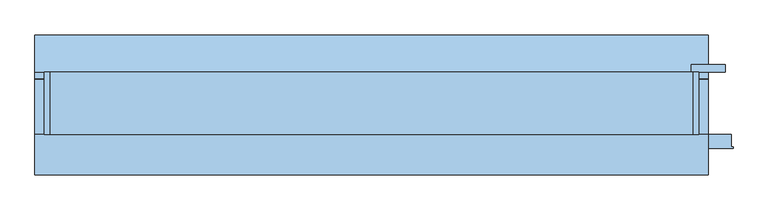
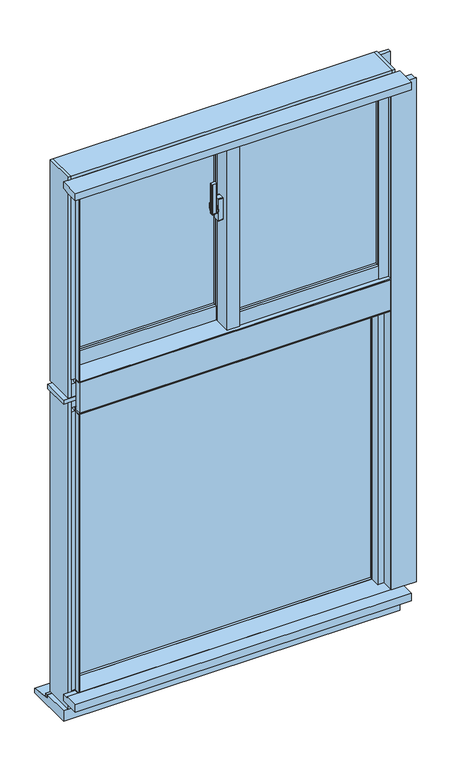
"""IFC4 building model written with IfcOpenShell, lengths in millimetres: window geometry, FNSⅡ100R_非防火_RC枠_段窓_分解無目 : 引違/FIX."""

from ifc_helpers import new_model, si_unit, point, frame, frame_2d, origin, place, context, project, spatial, polyline, circle_curve, trimmed, segment, composite_curve, outline, extrude, faceted_brep, source, transform, mapped, element, save
from ifc_brep_helpers import plane_surface, cylinder_surface, revolved_surface, advanced_brep


def window_89d6bdb9(model_context):
    return source(origin(), model_context, "Body", "SolidModel", [
        extrude(outline(composite_curve([segment(polyline([(-39.0, -20.4), (-39.0, -28.6)]), True, "CONTINUOUS"), segment(trimmed(circle_curve(frame_2d((-41.0, -28.6)), 2.0), [point((-39.0, -28.6))], [point((-41.3606557, -30.5672131))], False, "CARTESIAN"), True, "CONTINUOUS"), segment(polyline([(-41.3606557, -30.5672131), (-52.3606557, -28.5505464)]), True, "CONTINUOUS"), segment(trimmed(circle_curve(frame_2d((-52.0, -26.5833333)), 2.0), [point((-52.3606557, -28.5505464))], [point((-54.0, -26.5833333))], False, "CARTESIAN"), True, "CONTINUOUS"), segment(polyline([(-54.0, -26.5833333), (-54.0, -22.4166667)]), True, "CONTINUOUS"), segment(trimmed(circle_curve(frame_2d((-52.0, -22.4166667)), 2.0), [point((-54.0, -22.4166667))], [point((-52.3606557, -20.4494536))], False, "CARTESIAN"), True, "CONTINUOUS"), segment(polyline([(-52.3606557, -20.4494536), (-41.3606557, -18.4327869)]), True, "CONTINUOUS"), segment(trimmed(circle_curve(frame_2d((-41.0, -20.4)), 2.0), [point((-41.3606557, -18.4327869))], [point((-39.0, -20.4))], False, "CARTESIAN"), True, "CONTINUOUS")], self_intersect=False)), frame((0.0, 0.0, 2345.0), z_axis=(0.0, 0.0, 1.0), x_axis=(1.0, 0.0, 0.0)), (0.0, 0.0, 1.0), 100.0),
        advanced_brep(
        [(-37.5, -16.1765715, 2376.7333311), (-45.5, -16.1765715, 2376.7333311), (-45.5, -16.5648001, 2375.2844424), (-39.0, -16.5648001, 2375.2844424), (-39.0, -18.3765334, 2368.5229616), (-37.5, -18.3765334, 2368.5229616), (-39.0, -18.3533883, 2334.3190372), (-45.5, -18.3533883, 2334.3190372), (-45.5, -18.092916, 2332.8418256), (-37.5, -18.092916, 2332.8418256), (-37.5, -19.5689255, 2341.2126915), (-39.0, -19.5689255, 2341.2126915)],
        [
            (0, 1),
            (1, 2),
            (2, 3),
            (3, 4),
            (4, 5),
            (5, 0),
            (6, 7),
            (7, 8),
            (8, 9),
            (9, 10),
            (10, 11),
            (11, 6),
            (0, 9, circle_curve(frame((-37.5, -22.0, 2355.0), z_axis=(-1.0, 0.0, 0.0), x_axis=(0.0, 0.25881904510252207, 0.965925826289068)), 22.5)),
            (8, 1, circle_curve(frame((-45.5, -22.0, 2355.0), z_axis=(1.0, 0.0, 0.0), x_axis=(0.0, 0.25881904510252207, 0.965925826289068)), 22.5)),
            (7, 2, circle_curve(frame((-45.5, -22.0, 2355.0), z_axis=(1.0, 0.0, 0.0), x_axis=(0.0, 0.25881904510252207, 0.965925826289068)), 21.0)),
            (6, 3, circle_curve(frame((-39.0, -22.0, 2355.0), z_axis=(1.0, 0.0, 0.0), x_axis=(0.0, 0.25881904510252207, 0.965925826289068)), 21.0)),
            (11, 4, circle_curve(frame((-39.0, -22.0, 2355.0), z_axis=(-1.0, 0.0, 0.0), x_axis=(0.0, -1.0, 0.0)), 14.0)),
            (5, 10, circle_curve(frame((-37.5, -22.0, 2355.0), z_axis=(1.0, 0.0, 0.0), x_axis=(0.0, -1.0, 0.0)), 14.0)),
        ],
        [
            plane_surface(frame((-43.5470497, -22.0, 2355.0), z_axis=(0.0, -0.965925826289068, 0.25881904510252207), x_axis=(0.0, 0.25881904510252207, 0.965925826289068))),
            plane_surface(frame((-43.5470497, -22.0, 2355.0), z_axis=(0.0, -0.9848077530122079, -0.17364817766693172), x_axis=(0.0, 0.17364817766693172, -0.9848077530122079))),
            cylinder_surface(frame((-43.5470497, -22.0, 2355.0), z_axis=(-1.0, 0.0, 0.0), x_axis=(0.0, 0.25881904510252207, 0.965925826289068)), 22.5),
            plane_surface(frame((-45.5, -22.0, 2355.0), z_axis=(-1.0, 0.0, 0.0), x_axis=(0.0, 0.25881904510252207, 0.965925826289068))),
            revolved_surface(polyline([(-45.5, -16.564800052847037, 2375.2844423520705), (-39.0, -16.564800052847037, 2375.2844423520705)]), (-43.5470497, -22.0, 2355.0), (-1.0, 0.0, 0.0)),
            plane_surface(frame((-39.0, -22.0, 2355.0), z_axis=(-1.0, 0.0, 0.0), x_axis=(0.0, 0.25881904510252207, 0.965925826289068))),
            plane_surface(frame((-37.5, -22.0, 2355.0), z_axis=(1.0, 0.0, 0.0), x_axis=(0.0, 0.25881904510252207, 0.965925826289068))),
            cylinder_surface(frame((-37.5, -22.0, 2355.0), z_axis=(-1.0, 0.0, 0.0), x_axis=(0.0, -1.0, 0.0)), 14.0),
        ],
        [
            (0, [[1, 2, 3, 4, 5, 6]]),
            (1, [[7, 8, 9, 10, 11, 12]]),
            (2, [[-1, 13, -9, 14]]),
            (3, [[-2, -14, -8, 15]]),
            (4, [[-3, -15, -7, 16]]),
            (5, [[-16, -12, 17, -4]]),
            (6, [[-13, -6, 18, -10]]),
            (7, [[-17, -11, -18, -5]]),
        ],
    ),
        extrude(outline(composite_curve([segment(trimmed(circle_curve(frame_2d((-22.0, 2355.0)), 11.5), [point((-10.5, 2355.0))], [point((-33.5, 2355.0))], False, "CARTESIAN"), True, "CONTINUOUS"), segment(trimmed(circle_curve(frame_2d((-22.0, 2355.0)), 11.5), [point((-33.5, 2355.0))], [point((-10.5, 2355.0))], False, "CARTESIAN"), True, "CONTINUOUS")], self_intersect=False)), frame((-37.5, 0.0, 0.0), z_axis=(1.0, 0.0, 0.0), x_axis=(0.0, 1.0, 0.0)), (0.0, 0.0, 1.0), 2.5),
        extrude(outline(composite_curve([segment(polyline([(-31.0, 2392.5), (-13.0, 2392.5)]), True, "CONTINUOUS"), segment(trimmed(circle_curve(frame_2d((-13.0, 2390.5)), 2.0), [point((-13.0, 2392.5))], [point((-11.0, 2390.5))], False, "CARTESIAN"), True, "CONTINUOUS"), segment(polyline([(-11.0, 2390.5), (-11.0, 2319.5)]), True, "CONTINUOUS"), segment(trimmed(circle_curve(frame_2d((-13.0, 2319.5)), 2.0), [point((-11.0, 2319.5))], [point((-13.0, 2317.5))], False, "CARTESIAN"), True, "CONTINUOUS"), segment(polyline([(-13.0, 2317.5), (-31.0, 2317.5)]), True, "CONTINUOUS"), segment(trimmed(circle_curve(frame_2d((-31.0, 2319.5)), 2.0), [point((-31.0, 2317.5))], [point((-33.0, 2319.5))], False, "CARTESIAN"), True, "CONTINUOUS"), segment(polyline([(-33.0, 2319.5), (-33.0, 2390.5)]), True, "CONTINUOUS"), segment(trimmed(circle_curve(frame_2d((-31.0, 2390.5)), 2.0), [point((-33.0, 2390.5))], [point((-31.0, 2392.5))], False, "CARTESIAN"), True, "CONTINUOUS")], self_intersect=False)), frame((-35.0, 0.0, 0.0), z_axis=(1.0, 0.0, 0.0), x_axis=(0.0, 1.0, 0.0)), (0.0, 0.0, 1.0), 15.0),
        extrude(outline(polyline([(20.0, -31.0), (468.0, -31.0), (468.0, -37.0), (20.0, -37.0), (20.0, -31.0)])), frame((0.0, 0.0, 2003.0), z_axis=(0.0, 0.0, 1.0), x_axis=(1.0, 0.0, 0.0)), (0.0, 0.0, 1.0), 567.0),
        extrude(outline(polyline([(20.0, -13.0), (468.0, -13.0), (468.0, -19.0), (20.0, -19.0), (20.0, -13.0)])), frame((0.0, 0.0, 2003.0), z_axis=(0.0, 0.0, 1.0), x_axis=(1.0, 0.0, 0.0)), (0.0, 0.0, 1.0), 567.0),
        extrude(outline(polyline([(-468.0, 27.0), (-20.0, 27.0), (-20.0, 21.0), (-468.0, 21.0), (-468.0, 27.0)])), frame((0.0, 0.0, 2003.0), z_axis=(0.0, 0.0, 1.0), x_axis=(1.0, 0.0, 0.0)), (0.0, 0.0, 1.0), 567.0),
        extrude(outline(polyline([(-468.0, 45.0), (-20.0, 45.0), (-20.0, 39.0), (-468.0, 39.0), (-468.0, 45.0)])), frame((0.0, 0.0, 2003.0), z_axis=(0.0, 0.0, 1.0), x_axis=(1.0, 0.0, 0.0)), (0.0, 0.0, 1.0), 567.0),
        faceted_brep([(-489.5, 24.0, 2610.0), (-500.0, 24.0, 2610.0), (-500.0, 24.0, 1915.0), (-468.0, 24.0, 1915.0), (-468.0, 24.0, 1955.0), (-489.5, 24.0, 1955.0), (-489.5, 11.0, 2610.0), (-489.5, 11.0, 1955.0), (-468.0, 53.0, 2610.0), (-468.0, 11.0, 2610.0), (-468.0, 11.0, 1955.0), (-468.0, 53.0, 1915.0), (-500.0, 53.0, 2610.0), (-500.0, 53.0, 1915.0)], [[[0, 1, 2, 3, 4, 5]], [[6, 0, 5, 7]], [[8, 9, 10, 4, 3, 11]], [[1, 0, 6, 9, 8, 12]], [[3, 2, 13, 11]], [[9, 6, 7, 10]], [[12, 8, 11, 13]], [[2, 1, 12, 13]], [[5, 4, 10, 7]]]),
        faceted_brep([(-20.0, 10.5, 2610.0), (-1.8, 10.5, 2610.0), (-1.8, -1.9, 2610.0), (20.0, -1.9, 2610.0), (20.0, 53.0, 2610.0), (-20.0, 53.0, 2610.0), (-20.0, 53.0, 1915.0), (20.0, 53.0, 1915.0), (20.0, 24.0, 1915.0), (-20.0, 24.0, 1915.0), (-20.0, 10.5, 1955.0), (-1.8, 10.5, 1955.0), (-1.8, -1.9, 1955.0), (20.0, -1.9, 1955.0), (20.0, 24.0, 1955.0), (-20.0, 24.0, 1955.0)], [[[0, 1, 2, 3, 4, 5]], [[6, 7, 8, 9]], [[1, 0, 10, 11]], [[2, 1, 11, 12]], [[3, 2, 12, 13]], [[4, 3, 13, 14, 8, 7]], [[5, 4, 7, 6]], [[0, 5, 6, 9, 15, 10]], [[14, 15, 9, 8]], [[15, 14, 13, 12, 11, 10]]]),
        extrude(outline(polyline([(-20.0, -1.9), (-15.0, -1.9), (-15.0, -47.0), (15.0, -47.0), (15.0, -43.0), (20.0, -43.0), (20.0, -55.0), (-20.0, -55.0), (-20.0, -1.9)])), frame((0.0, 0.0, 1955.0), z_axis=(0.0, 0.0, 1.0), x_axis=(1.0, 0.0, 0.0)), (0.0, 0.0, 1.0), 655.0),
        extrude(outline(polyline([(-15.0, -1.9), (20.0, -1.9), (20.0, -43.0), (15.0, -43.0), (15.0, -47.0), (-15.0, -47.0), (-15.0, -1.9)])), frame((0.0, 0.0, 1955.0), z_axis=(0.0, 0.0, 1.0), x_axis=(1.0, 0.0, 0.0)), (0.0, 0.0, 1.0), 655.0),
        extrude(outline(polyline([(468.0, -55.0), (468.0, -47.0), (489.5, -47.0), (489.5, -34.0), (497.0, -34.0), (497.0, -55.0), (468.0, -55.0)])), frame((0.0, 0.0, 1958.0), z_axis=(0.0, 0.0, 1.0), x_axis=(1.0, 0.0, 0.0)), (0.0, 0.0, 1.0), 652.0),
        extrude(outline(polyline([(468.0, -5.0), (500.0, -5.0), (500.0, -34.0), (489.5, -34.0), (489.5, -47.0), (468.0, -47.0), (468.0, -5.0)])), frame((0.0, 0.0, 1955.0), z_axis=(0.0, 0.0, 1.0), x_axis=(1.0, 0.0, 0.0)), (0.0, 0.0, 1.0), 655.0),
        extrude(outline(polyline([(-1.85, 10.5), (-1.85, 3.0), (-20.0, 3.0), (-20.0, 10.5), (-1.85, 10.5)])), frame((0.0, 0.0, 1955.0), z_axis=(0.0, 0.0, 1.0), x_axis=(1.0, 0.0, 0.0)), (0.0, 0.0, 1.0), 655.0),
        extrude(outline(polyline([(-497.0, 24.0), (-489.5, 24.0), (-489.5, 11.0), (-468.0, 11.0), (-468.0, 3.0), (-497.0, 3.0), (-497.0, 24.0)])), frame((0.0, 0.0, 1955.0), z_axis=(0.0, 0.0, 1.0), x_axis=(1.0, 0.0, 0.0)), (0.0, 0.0, 1.0), 655.0),
        extrude(outline(polyline([(-53.0, 1958.0), (-53.0, 2003.0), (-45.0, 2003.0), (-45.0, 1980.5), (-34.0, 1980.5), (-34.0, 1958.0), (-53.0, 1958.0)])), frame((20.0, 0.0, 0.0), z_axis=(1.0, 0.0, 0.0), x_axis=(0.0, 1.0, 0.0)), (0.0, 0.0, 1.0), 448.0),
        extrude(outline(polyline([(-5.0, 1955.0), (-34.0, 1955.0), (-34.0, 1980.5), (-45.0, 1980.5), (-45.0, 2003.0), (-5.0, 2003.0), (-5.0, 1955.0)])), frame((20.0, 0.0, 0.0), z_axis=(1.0, 0.0, 0.0), x_axis=(0.0, 1.0, 0.0)), (0.0, 0.0, 1.0), 448.0),
        extrude(outline(polyline([(5.0, 2003.0), (13.0, 2003.0), (13.0, 1980.5), (24.0, 1980.5), (24.0, 1955.0), (5.0, 1955.0), (5.0, 2003.0)])), frame((-468.0, 0.0, 0.0), z_axis=(1.0, 0.0, 0.0), x_axis=(0.0, 1.0, 0.0)), (0.0, 0.0, 1.0), 448.0),
        extrude(outline(polyline([(53.0, 1915.0), (24.0, 1915.0), (24.0, 1980.5), (13.0, 1980.5), (13.0, 2003.0), (53.0, 2003.0), (53.0, 1915.0)])), frame((-468.0, 0.0, 0.0), z_axis=(1.0, 0.0, 0.0), x_axis=(0.0, 1.0, 0.0)), (0.0, 0.0, 1.0), 448.0),
        extrude(outline(polyline([(-32.0, 2590.5), (-45.0, 2590.5), (-45.0, 2570.0), (-53.0, 2570.0), (-53.0, 2610.0), (-32.0, 2610.0), (-32.0, 2590.5)])), frame((20.0, 0.0, 0.0), z_axis=(1.0, 0.0, 0.0), x_axis=(0.0, 1.0, 0.0)), (0.0, 0.0, 1.0), 448.0),
        extrude(outline(polyline([(-5.0, 2610.0), (-5.0, 2570.0), (-45.0, 2570.0), (-45.0, 2590.5), (-32.0, 2590.5), (-32.0, 2610.0), (-5.0, 2610.0)])), frame((20.0, 0.0, 0.0), z_axis=(1.0, 0.0, 0.0), x_axis=(0.0, 1.0, 0.0)), (0.0, 0.0, 1.0), 448.0),
        extrude(outline(polyline([(26.0, 2590.5), (13.0, 2590.5), (13.0, 2570.0), (5.0, 2570.0), (5.0, 2610.0), (26.0, 2610.0), (26.0, 2590.5)])), frame((-468.0, 0.0, 0.0), z_axis=(1.0, 0.0, 0.0), x_axis=(0.0, 1.0, 0.0)), (0.0, 0.0, 1.0), 448.0),
        extrude(outline(polyline([(53.0, 2610.0), (53.0, 2570.0), (13.0, 2570.0), (13.0, 2590.5), (26.0, 2590.5), (26.0, 2610.0), (53.0, 2610.0)])), frame((-468.0, 0.0, 0.0), z_axis=(1.0, 0.0, 0.0), x_axis=(0.0, 1.0, 0.0)), (0.0, 0.0, 1.0), 448.0),
        extrude(outline(polyline([(-15.0, 25.3), (-15.0, -23.1), (-500.0, -23.1), (-500.0, 25.3), (-15.0, 25.3)])), frame((0.0, 0.0, 2610.0), z_axis=(0.0, 0.0, 1.0), x_axis=(1.0, 0.0, 0.0)), (0.0, 0.0, 1.0), 25.0),
        faceted_brep([(515.0, 25.3, 2635.0), (515.0, -45.0, 2635.0), (-515.0, -45.0, 2635.0), (-515.0, 25.3, 2635.0), (-15.0, 25.3, 2635.0), (-15.0, -23.1, 2635.0), (500.0, -23.1, 2635.0), (500.0, 25.3, 2635.0), (-515.0, 25.3, 2610.0), (-15.0, 25.3, 2610.0), (515.0, 25.3, 2610.0), (500.0, 25.3, 2610.0), (515.0, 55.0, 2610.0), (500.0, -23.1, 2610.0), (-15.0, -23.1, 2610.0), (-515.0, 55.0, 2610.0), (515.0, 55.0, 2645.0), (-515.0, 55.0, 2645.0), (515.0, -45.0, 2645.0), (-515.0, -45.0, 2645.0)], [[[0, 1, 2, 3, 4, 5, 6, 7]], [[3, 8, 9, 4]], [[10, 0, 7, 11]], [[12, 10, 11, 13, 14, 9, 8, 15]], [[16, 12, 15, 17]], [[18, 16, 17, 19]], [[1, 18, 19, 2]], [[12, 16, 18, 1, 0, 10]], [[15, 8, 3, 2, 19, 17]], [[6, 13, 11, 7]], [[9, 14, 5, 4]], [[13, 6, 5, 14]]]),
        extrude(outline(polyline([(-23.1, 2610.0), (-65.0, 2610.0), (-65.0, 2613.0), (-45.0, 2613.0), (-45.0, 2635.0), (-23.1, 2635.0), (-23.1, 2610.0)])), frame((-500.0, 0.0, 0.0), z_axis=(1.0, 0.0, 0.0), x_axis=(0.0, 1.0, 0.0)), (0.0, 0.0, 1.0), 1000.0),
        faceted_brep([(500.0, -65.0, 1955.0), (503.0, -65.0, 1955.0), (503.0, -65.0, 2613.0), (500.0, -65.0, 2613.0), (500.0, -40.5, 2630.0), (515.0, -40.5, 2630.0), (515.0, -40.5, 1955.0), (500.0, -40.5, 1955.0), (500.0, -45.0, 2613.0), (500.0, -45.0, 2630.0), (503.0, -45.0, 2613.0), (515.0, -45.0, 2630.0), (515.0, -45.0, 1955.0), (503.0, -45.0, 1955.0)], [[[0, 1, 2, 3]], [[4, 5, 6, 7]], [[7, 0, 3, 8, 9, 4]], [[10, 8, 3, 2]], [[9, 11, 5, 4]], [[0, 7, 6, 12, 13, 1]], [[1, 13, 10, 2]], [[9, 8, 10, 13, 12, 11]], [[5, 11, 12, 6]]]),
        faceted_brep([(-515.0, 21.0, 2630.0), (-500.0, 21.0, 2630.0), (-500.0, 21.0, 1955.0), (-515.0, 21.0, 1955.0), (-515.0, -45.0, 2630.0), (-500.0, -45.0, 2630.0), (-515.0, -45.0, 1955.0), (-500.0, -65.0, 1955.0), (-503.0, -65.0, 1955.0), (-503.0, -45.0, 1955.0), (-503.0, -45.0, 2613.0), (-500.0, -45.0, 2613.0), (-503.0, -65.0, 2613.0), (-500.0, -65.0, 2613.0)], [[[0, 1, 2, 3]], [[4, 5, 1, 0]], [[6, 3, 2, 7, 8, 9]], [[6, 9, 10, 11, 5, 4]], [[9, 8, 12, 10]], [[8, 7, 13, 12]], [[7, 2, 1, 5, 11, 13]], [[6, 4, 0, 3]], [[11, 10, 12, 13]]]),
        faceted_brep([(-525.0, 55.0, 1895.0), (-515.0, 55.0, 1895.0), (-515.0, -45.0, 1895.0), (-525.0, -45.0, 1895.0), (-515.0, -45.0, 2645.0), (-525.0, -45.0, 2645.0), (-500.0, 55.0, 1904.0), (-500.0, 21.0, 1904.0), (-515.0, 21.0, 1904.0), (-515.0, 55.0, 1904.0), (-500.0, 21.0, 2610.0), (-515.0, 21.0, 2610.0), (-525.0, 55.0, 2645.0), (-515.0, 55.0, 2645.0), (-515.0, 55.0, 2610.0), (-500.0, 55.0, 2610.0)], [[[0, 1, 2, 3]], [[4, 5, 3, 2]], [[6, 7, 8, 9]], [[10, 11, 8, 7]], [[12, 5, 4, 13]], [[5, 12, 0, 3]], [[13, 4, 2, 1, 9, 8, 11, 14]], [[12, 13, 14, 15, 6, 9, 1, 0]], [[15, 14, 11, 10]], [[15, 10, 7, 6]]]),
        faceted_brep([(515.0, -45.0, 1895.0), (515.0, 55.0, 1895.0), (525.0, 55.0, 1895.0), (525.0, -45.0, 1895.0), (500.0, -40.5, 1904.0), (500.0, 55.0, 1904.0), (515.0, 55.0, 1904.0), (515.0, -40.5, 1904.0), (515.0, -45.0, 2645.0), (515.0, 55.0, 2645.0), (515.0, 55.0, 2610.0), (515.0, -40.5, 2610.0), (525.0, -45.0, 2645.0), (525.0, 55.0, 2645.0), (500.0, -40.5, 2610.0), (500.0, 55.0, 2610.0)], [[[0, 1, 2, 3]], [[4, 5, 6, 7]], [[8, 9, 10, 11, 7, 6, 1, 0]], [[8, 12, 13, 9]], [[11, 14, 4, 7]], [[14, 15, 5, 4]], [[14, 11, 10, 15]], [[12, 8, 0, 3]], [[13, 12, 3, 2]], [[9, 13, 2, 1, 6, 5, 15, 10]]]),
        faceted_brep([(515.0, 21.0, 1904.0), (515.0, 55.0, 1904.0), (-515.0, 55.0, 1904.0), (-515.0, 21.0, 1904.0), (515.0, -45.0, 1939.0), (515.0, 21.0, 1939.0), (-515.0, 21.0, 1939.0), (-515.0, -45.0, 1939.0), (500.0, -17.75, 1939.0), (500.0, -36.2, 1939.0), (-15.0, -36.2, 1939.0), (-15.0, -17.75, 1939.0), (515.0, 55.0, 1895.0), (515.0, -45.0, 1895.0), (-515.0, -45.0, 1895.0), (-515.0, 55.0, 1895.0), (500.0, -36.2, 1955.0), (500.0, -17.75, 1955.0), (-15.0, -36.2, 1955.0), (-15.0, -17.75, 1955.0)], [[[0, 1, 2, 3]], [[4, 5, 6, 7], [8, 9, 10, 11]], [[5, 0, 3, 6]], [[12, 13, 14, 15]], [[12, 1, 0, 5, 4, 13]], [[15, 14, 7, 6, 3, 2]], [[13, 4, 7, 14]], [[1, 12, 15, 2]], [[16, 9, 8, 17]], [[18, 19, 11, 10]], [[9, 16, 18, 10]], [[17, 8, 11, 19]], [[16, 17, 19, 18]]]),
        faceted_brep([(-503.0, -45.0, 1939.0), (-503.0, -45.0, 1952.0), (-503.0, -65.0, 1952.0), (-503.0, -65.0, 1955.0), (-503.0, -36.2, 1955.0), (-503.0, -36.2, 1939.0), (503.0, -45.0, 1952.0), (503.0, -65.0, 1952.0), (503.0, -65.0, 1955.0), (503.0, -40.5, 1955.0), (500.0, -40.5, 1955.0), (500.0, -36.2, 1955.0), (-15.0, -36.2, 1955.0), (-15.0, 21.0, 1955.0), (-500.0, 21.0, 1955.0), (-500.0, -36.2, 1955.0), (-500.0, -36.2, 1939.0), (500.0, -36.2, 1939.0), (-15.0, -36.2, 1939.0), (503.0, -45.0, 1939.0), (503.0, -40.5, 1939.0), (-500.0, 21.0, 1939.0), (-15.0, 21.0, 1939.0), (500.0, -40.5, 1939.0)], [[[0, 1, 2, 3, 4, 5]], [[6, 7, 2, 1]], [[7, 8, 3, 2]], [[4, 3, 8, 9, 10, 11, 12, 13, 14, 15]], [[5, 4, 15, 16]], [[11, 17, 18, 12]], [[8, 7, 6, 19, 20, 9]], [[19, 6, 1, 0]], [[0, 5, 16, 21, 22, 18, 17, 23, 20, 19]], [[10, 23, 17, 11]], [[23, 10, 9, 20]], [[13, 12, 18, 22]], [[14, 21, 16, 15]], [[13, 22, 21, 14]]]),
        extrude(outline(polyline([(-480.0, 20.6), (480.0, 20.6), (480.0, 14.6), (-480.0, 14.6), (-480.0, 20.6)])), frame((0.0, 0.0, 900.0), z_axis=(0.0, 0.0, 1.0), x_axis=(1.0, 0.0, 0.0)), (0.0, 0.0, 1.0), 925.0),
        extrude(outline(polyline([(-480.0, 38.6), (480.0, 38.6), (480.0, 32.6), (-480.0, 32.6), (-480.0, 38.6)])), frame((0.0, 0.0, 900.0), z_axis=(0.0, 0.0, 1.0), x_axis=(1.0, 0.0, 0.0)), (0.0, 0.0, 1.0), 925.0),
        faceted_brep([(-480.0, 5.0, 1825.0), (-515.0, 5.0, 1825.0), (-515.0, 5.0, 900.0), (-480.0, 5.0, 900.0), (-480.0, 55.0, 1825.0), (-480.0, 55.0, 900.0), (-515.0, 55.0, 1880.0), (-515.0, -45.0, 1880.0), (-515.0, -45.0, 840.0), (-515.0, 55.0, 840.0), (-515.0, 55.0, 900.0), (-515.0, 55.0, 1825.0), (-525.0, 55.0, 1880.0), (-525.0, -45.0, 1880.0), (-525.0, 55.0, 840.0), (-525.0, -45.0, 840.0)], [[[0, 1, 2, 3]], [[4, 0, 3, 5]], [[6, 7, 8, 9, 10, 2, 1, 11]], [[5, 3, 2, 10]], [[12, 13, 7, 6]], [[14, 9, 8, 15]], [[13, 12, 14, 15]], [[7, 13, 15, 8]], [[12, 6, 11, 4, 5, 10, 9, 14]], [[4, 11, 1, 0]]]),
        faceted_brep([(480.0, 5.0, 1825.0), (480.0, 55.0, 1825.0), (480.0, 55.0, 900.0), (480.0, 5.0, 900.0), (515.0, 5.0, 1825.0), (515.0, 5.0, 900.0), (525.0, -45.0, 1880.0), (515.0, -45.0, 1880.0), (515.0, -45.0, 840.0), (525.0, -45.0, 840.0), (525.0, 55.0, 1880.0), (525.0, 55.0, 840.0), (515.0, 55.0, 900.0), (515.0, 55.0, 1880.0), (515.0, 55.0, 840.0), (515.0, 55.0, 1825.0)], [[[0, 1, 2, 3]], [[4, 0, 3, 5]], [[6, 7, 8, 9]], [[10, 6, 9, 11]], [[5, 3, 2, 12]], [[10, 13, 7, 6]], [[11, 9, 8, 14]], [[13, 10, 11, 14, 12, 2, 1, 15]], [[7, 13, 15, 4, 5, 12, 14, 8]], [[15, 1, 0, 4]]]),
        extrude(outline(polyline([(500.0, -65.0), (500.0, -26.5), (480.0, -26.5), (480.0, 5.0), (515.0, 5.0), (515.0, -45.0), (503.0, -45.0), (503.0, -65.0), (500.0, -65.0)])), frame((0.0, 0.0, 900.0), z_axis=(0.0, 0.0, 1.0), x_axis=(1.0, 0.0, 0.0)), (0.0, 0.0, 1.0), 945.0),
        extrude(outline(polyline([(-515.0, -45.0), (-515.0, 5.0), (-480.0, 5.0), (-480.0, -26.5), (-500.0, -26.5), (-500.0, -65.0), (-503.0, -65.0), (-503.0, -45.0), (-515.0, -45.0)])), frame((0.0, 0.0, 900.0), z_axis=(0.0, 0.0, 1.0), x_axis=(1.0, 0.0, 0.0)), (0.0, 0.0, 1.0), 945.0),
        extrude(outline(polyline([(-45.0, 884.0), (-45.0, 897.0), (-65.0, 897.0), (-65.0, 900.0), (5.0, 900.0), (5.0, 884.0), (-45.0, 884.0)])), frame((-503.0, 0.0, 0.0), z_axis=(1.0, 0.0, 0.0), x_axis=(0.0, 1.0, 0.0)), (0.0, 0.0, 1.0), 1006.0),
        extrude(outline(polyline([(55.0, 840.0), (-45.0, 840.0), (-45.0, 884.0), (5.0, 884.0), (5.0, 900.0), (55.0, 900.0), (55.0, 870.0), (36.0, 870.0), (36.0, 850.0), (55.0, 850.0), (55.0, 840.0)])), frame((-515.0, 0.0, 0.0), z_axis=(1.0, 0.0, 0.0), x_axis=(0.0, 1.0, 0.0)), (0.0, 0.0, 1.0), 1030.0),
        extrude(outline(polyline([(5.0, 1822.0), (-29.0, 1822.0), (-29.0, 1845.0), (-65.0, 1845.0), (-65.0, 1848.0), (-45.0, 1848.0), (-45.0, 1860.0), (5.0, 1860.0), (5.0, 1822.0)])), frame((-503.0, 0.0, 0.0), z_axis=(1.0, 0.0, 0.0), x_axis=(0.0, 1.0, 0.0)), (0.0, 0.0, 1.0), 1006.0),
        extrude(outline(polyline([(55.0, 1825.0), (5.0, 1825.0), (5.0, 1860.0), (-45.0, 1860.0), (-45.0, 1880.0), (55.0, 1880.0), (55.0, 1825.0)])), frame((-515.0, 0.0, 0.0), z_axis=(1.0, 0.0, 0.0), x_axis=(0.0, 1.0, 0.0)), (0.0, 0.0, 1.0), 1030.0),
        extrude(outline(polyline([(-110.0, 900.0), (-65.0, 900.0), (-65.0, 897.0), (-45.0, 897.0), (-45.0, 875.0), (-110.0, 875.0), (-110.0, 900.0)])), frame((-540.0, 0.0, 0.0), z_axis=(1.0, 0.0, 0.0), x_axis=(0.0, 1.0, 0.0)), (0.0, 0.0, 1.0), 1080.0),
        extrude(outline(polyline([(45.0, 840.0), (55.0, 840.0), (55.0, 828.4285714), (45.0, 830.0), (45.0, 840.0)])), frame((-540.0, 0.0, 0.0), z_axis=(1.0, 0.0, 0.0), x_axis=(0.0, 1.0, 0.0)), (0.0, 0.0, 1.0), 1080.0),
        extrude(outline(polyline([(-45.0, 804.0), (-45.0, 840.0), (45.0, 840.0), (45.0, 830.0), (115.0, 819.0), (115.0, 804.0), (-45.0, 804.0)])), frame((-540.0, 0.0, 0.0), z_axis=(1.0, 0.0, 0.0), x_axis=(0.0, 1.0, 0.0)), (0.0, 0.0, 1.0), 1080.0),
        extrude(outline(polyline([(503.0, -65.0), (503.0, -45.0), (577.0, -45.0), (577.0, -65.0), (580.0, -65.0), (580.0, -67.5), (500.0, -67.5), (500.0, -65.0), (503.0, -65.0)])), frame((0.0, 0.0, 900.0), z_axis=(0.0, 0.0, 1.0), x_axis=(1.0, 0.0, 0.0)), (0.0, 0.0, 1.0), 1710.0),
        extrude(outline(polyline([(567.5, 55.0), (512.5, 55.0), (512.5, 67.0), (567.5, 67.0), (567.5, 55.0)])), frame((0.0, 0.0, 840.0), z_axis=(0.0, 0.0, 1.0), x_axis=(1.0, 0.0, 0.0)), (0.0, 0.0, 1.0), 1790.0),
        extrude(outline(polyline([(-110.0, 2635.0), (-45.0, 2635.0), (-45.0, 2613.0), (-65.0, 2613.0), (-65.0, 2610.0), (-110.0, 2610.0), (-110.0, 2635.0)])), frame((-540.0, 0.0, 0.0), z_axis=(1.0, 0.0, 0.0), x_axis=(0.0, 1.0, 0.0)), (0.0, 0.0, 1.0), 1080.0),
        extrude(outline(polyline([(-500.0, -65.0), (-500.0, -45.0), (500.0, -45.0), (500.0, -65.0), (-500.0, -65.0)])), frame((0.0, 0.0, 1848.0), z_axis=(0.0, 0.0, 1.0), x_axis=(1.0, 0.0, 0.0)), (0.0, 0.0, 1.0), 104.0),
        extrude(outline(polyline([(-540.0, -45.0), (-540.0, 43.0), (540.0, 43.0), (540.0, -45.0), (-540.0, -45.0)])), frame((0.0, 0.0, 1880.0), z_axis=(0.0, 0.0, 1.0), x_axis=(1.0, 0.0, 0.0)), (0.0, 0.0, 1.0), 15.0),
    ])


if __name__ == "__main__":
    model = new_model("IFC4")
    model_context = context("Model", 3, world=origin())
    ifc_project = project(units=[si_unit("LENGTHUNIT", "METRE", prefix="MILLI")], contexts=[model_context])
    site = spatial("IfcSite", under=ifc_project)
    building = spatial("IfcBuilding", under=site)
    placement = place(None, origin())
    window_shape = window_89d6bdb9(model_context)
    element("IfcWindow", 1, ObjectType="FNSⅡ100R_非防火_RC枠_段窓_分解無目 : 引違/FIX", at=placement, inside=building, context=model_context, shape_type="MappedRepresentation", body=[
        mapped(window_shape, transform((0.0, 0.0, 0.0), x_axis=(1.0, 0.0, 0.0), y_axis=(0.0, 1.0, 0.0), z_axis=(0.0, 0.0, 1.0))),
    ])
    save(model, "model.ifc")
